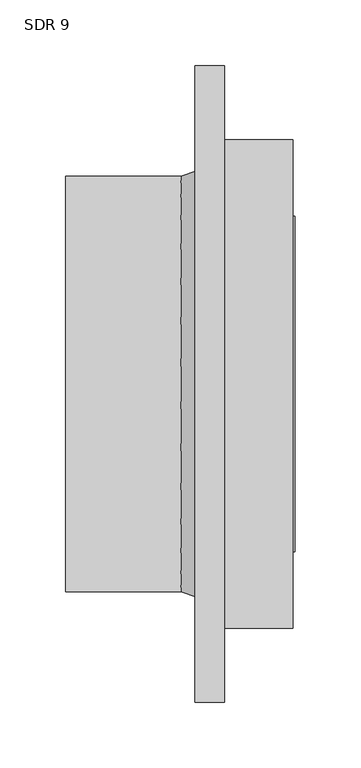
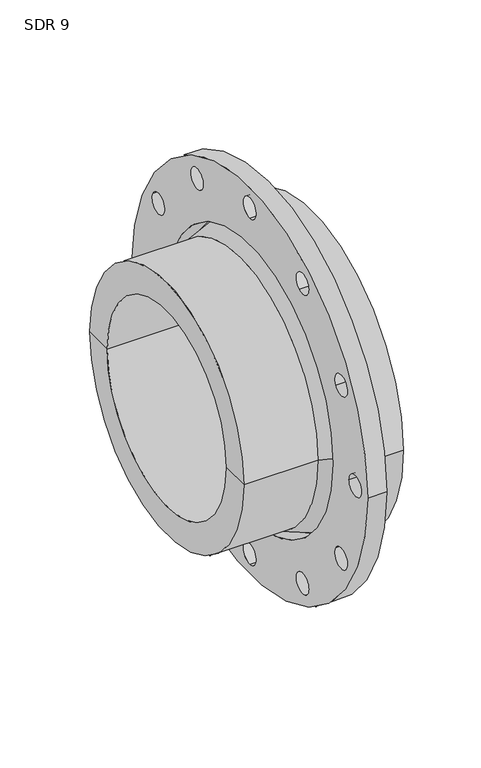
"""IFC4 building model written with IfcOpenShell, lengths in millimetres: valve geometry, Aquatherm - Flange Adapter Butt-Weld : SDR 9."""

from ifc_helpers import new_model, si_unit, point, frame, frame_2d, origin, origin_2d, place, context, project, spatial, polyline, circle_curve, trimmed, segment, composite_curve, outline, extrude, source, transform, mapped, element, save
from ifc_brep_helpers import plane_surface, cylinder_surface, revolved_surface, advanced_brep


def sdr_9_4c62836d(model_context):
    return source(origin(), model_context, "Body", "SolidModel", [
        extrude(outline(composite_curve([segment(trimmed(circle_curve(origin_2d(), 241.3), [point((241.3, 0.0))], [point((-241.3, 0.0))], False, "CARTESIAN"), True, "CONTINUOUS"), segment(trimmed(circle_curve(origin_2d(), 241.3), [point((-241.3, 0.0))], [point((241.3, 0.0))], False, "CARTESIAN"), True, "CONTINUOUS")], self_intersect=False), holes=[composite_curve([segment(trimmed(circle_curve(origin_2d(), 170.18), [point((170.18, 0.0))], [point((-170.18, 0.0))], True, "CARTESIAN"), True, "CONTINUOUS"), segment(trimmed(circle_curve(origin_2d(), 170.18), [point((-170.18, 0.0))], [point((170.18, 0.0))], True, "CARTESIAN"), True, "CONTINUOUS")], self_intersect=False), composite_curve([segment(trimmed(circle_curve(frame_2d((-215.9, 0.0)), 12.7), [point((-203.2, 0.0))], [point((-228.6, 0.0))], True, "CARTESIAN"), True, "CONTINUOUS"), segment(trimmed(circle_curve(frame_2d((-215.9, 0.0)), 12.7), [point((-228.6, 0.0))], [point((-203.2, 0.0))], True, "CARTESIAN"), True, "CONTINUOUS")], self_intersect=False), composite_curve([segment(trimmed(circle_curve(frame_2d((-186.9748847, -107.95)), 12.7), [point((-175.976362, -101.6))], [point((-197.9734073, -114.3))], True, "CARTESIAN"), True, "CONTINUOUS"), segment(trimmed(circle_curve(frame_2d((-186.9748847, -107.95)), 12.7), [point((-197.9734073, -114.3))], [point((-175.976362, -101.6))], True, "CARTESIAN"), True, "CONTINUOUS")], self_intersect=False), composite_curve([segment(trimmed(circle_curve(frame_2d((-186.9748847, 107.95)), 12.7), [point((-175.976362, 101.6))], [point((-197.9734073, 114.3))], True, "CARTESIAN"), True, "CONTINUOUS"), segment(trimmed(circle_curve(frame_2d((-186.9748847, 107.95)), 12.7), [point((-197.9734073, 114.3))], [point((-175.976362, 101.6))], True, "CARTESIAN"), True, "CONTINUOUS")], self_intersect=False), composite_curve([segment(trimmed(circle_curve(frame_2d((-107.95, 186.9748847)), 12.7), [point((-101.6, 175.976362))], [point((-114.3, 197.9734073))], True, "CARTESIAN"), True, "CONTINUOUS"), segment(trimmed(circle_curve(frame_2d((-107.95, 186.9748847)), 12.7), [point((-114.3, 197.9734073))], [point((-101.6, 175.976362))], True, "CARTESIAN"), True, "CONTINUOUS")], self_intersect=False), composite_curve([segment(trimmed(circle_curve(frame_2d((0.0, 215.9)), 12.7), [point((0.0, 203.2))], [point((0.0, 228.6))], True, "CARTESIAN"), True, "CONTINUOUS"), segment(trimmed(circle_curve(frame_2d((0.0, 215.9)), 12.7), [point((0.0, 228.6))], [point((0.0, 203.2))], True, "CARTESIAN"), True, "CONTINUOUS")], self_intersect=False), composite_curve([segment(trimmed(circle_curve(frame_2d((107.95, 186.9748847)), 12.7), [point((101.6, 175.976362))], [point((114.3, 197.9734073))], True, "CARTESIAN"), True, "CONTINUOUS"), segment(trimmed(circle_curve(frame_2d((107.95, 186.9748847)), 12.7), [point((114.3, 197.9734073))], [point((101.6, 175.976362))], True, "CARTESIAN"), True, "CONTINUOUS")], self_intersect=False), composite_curve([segment(trimmed(circle_curve(frame_2d((186.9748847, 107.95)), 12.7), [point((175.976362, 101.6))], [point((197.9734073, 114.3))], True, "CARTESIAN"), True, "CONTINUOUS"), segment(trimmed(circle_curve(frame_2d((186.9748847, 107.95)), 12.7), [point((197.9734073, 114.3))], [point((175.976362, 101.6))], True, "CARTESIAN"), True, "CONTINUOUS")], self_intersect=False), composite_curve([segment(trimmed(circle_curve(frame_2d((215.9, 0.0)), 12.7), [point((203.2, 0.0))], [point((228.6, 0.0))], True, "CARTESIAN"), True, "CONTINUOUS"), segment(trimmed(circle_curve(frame_2d((215.9, 0.0)), 12.7), [point((228.6, 0.0))], [point((203.2, 0.0))], True, "CARTESIAN"), True, "CONTINUOUS")], self_intersect=False), composite_curve([segment(trimmed(circle_curve(frame_2d((186.9748847, -107.95)), 12.7), [point((175.976362, -101.6))], [point((197.9734073, -114.3))], True, "CARTESIAN"), True, "CONTINUOUS"), segment(trimmed(circle_curve(frame_2d((186.9748847, -107.95)), 12.7), [point((197.9734073, -114.3))], [point((175.976362, -101.6))], True, "CARTESIAN"), True, "CONTINUOUS")], self_intersect=False), composite_curve([segment(trimmed(circle_curve(frame_2d((107.95, -186.9748847)), 12.7), [point((101.6, -175.976362))], [point((114.3, -197.9734073))], True, "CARTESIAN"), True, "CONTINUOUS"), segment(trimmed(circle_curve(frame_2d((107.95, -186.9748847)), 12.7), [point((114.3, -197.9734073))], [point((101.6, -175.976362))], True, "CARTESIAN"), True, "CONTINUOUS")], self_intersect=False), composite_curve([segment(trimmed(circle_curve(frame_2d((0.0, -215.9)), 12.7), [point((0.0, -203.2))], [point((0.0, -228.6))], True, "CARTESIAN"), True, "CONTINUOUS"), segment(trimmed(circle_curve(frame_2d((0.0, -215.9)), 12.7), [point((0.0, -228.6))], [point((0.0, -203.2))], True, "CARTESIAN"), True, "CONTINUOUS")], self_intersect=False), composite_curve([segment(trimmed(circle_curve(frame_2d((-107.95, -186.9748847)), 12.7), [point((-101.6, -175.976362))], [point((-114.3, -197.9734073))], True, "CARTESIAN"), True, "CONTINUOUS"), segment(trimmed(circle_curve(frame_2d((-107.95, -186.9748847)), 12.7), [point((-114.3, -197.9734073))], [point((-101.6, -175.976362))], True, "CARTESIAN"), True, "CONTINUOUS")], self_intersect=False)]), frame((-22.352, 0.0, 0.0), z_axis=(1.0, 0.0, 0.0), x_axis=(0.0, 1.0, 0.0)), (0.0, 0.0, 1.0), 22.352),
        advanced_brep(
        [(52.07, -185.42, 0.0), (0.0, -185.42, 0.0), (0.0, 185.42, 0.0), (52.07, 185.42, 0.0), (53.6575, -122.174, 0.0), (53.6575, -127.254, 0.0), (53.6575, 127.254, 0.0), (53.6575, 122.174, 0.0), (-120.396, -122.174, 0.0), (-120.396, 122.174, 0.0), (-120.396, -157.48, 0.0), (-120.396, 157.48, 0.0), (-33.02, -157.48, 0.0), (-33.02, 157.48, 0.0), (0.0, -168.91, 0.0), (0.0, 168.91, 0.0), (52.07, -127.254, 0.0), (52.07, 127.254, 0.0)],
        [
            (0, 1),
            (1, 2, circle_curve(frame((0.0, 0.0, 0.0), z_axis=(1.0, 0.0, 0.0), x_axis=(0.0, 1.0, 0.0)), 185.42)),
            (2, 3),
            (3, 0, circle_curve(frame((52.07, 0.0, 0.0), z_axis=(-1.0, 0.0, 0.0), x_axis=(0.0, 1.0, 0.0)), 185.42)),
            (2, 1, circle_curve(frame((0.0, 0.0, 0.0), z_axis=(1.0, 0.0, 0.0), x_axis=(0.0, 1.0, 0.0)), 185.42)),
            (0, 3, circle_curve(frame((52.07, 0.0, 0.0), z_axis=(-1.0, 0.0, 0.0), x_axis=(0.0, 1.0, 0.0)), 185.42)),
            (4, 5),
            (5, 6, circle_curve(frame((53.6575, 0.0, 0.0), z_axis=(1.0, 0.0, 0.0), x_axis=(0.0, 1.0, 0.0)), 127.254)),
            (6, 7),
            (7, 4, circle_curve(frame((53.6575, 0.0, 0.0), z_axis=(-1.0, 0.0, 0.0), x_axis=(0.0, 1.0, 0.0)), 122.174)),
            (6, 5, circle_curve(frame((53.6575, 0.0, 0.0), z_axis=(1.0, 0.0, 0.0), x_axis=(0.0, 1.0, 0.0)), 127.254)),
            (4, 7, circle_curve(frame((53.6575, 0.0, 0.0), z_axis=(-1.0, 0.0, 0.0), x_axis=(0.0, 1.0, 0.0)), 122.174)),
            (8, 4),
            (7, 9),
            (9, 8, circle_curve(frame((-120.396, 0.0, 0.0), z_axis=(-1.0, 0.0, 0.0), x_axis=(0.0, 1.0, 0.0)), 122.174)),
            (8, 9, circle_curve(frame((-120.396, 0.0, 0.0), z_axis=(-1.0, 0.0, 0.0), x_axis=(0.0, 1.0, 0.0)), 122.174)),
            (10, 8),
            (9, 11),
            (11, 10, circle_curve(frame((-120.396, 0.0, 0.0), z_axis=(-1.0, 0.0, 0.0), x_axis=(0.0, 1.0, 0.0)), 157.48)),
            (10, 11, circle_curve(frame((-120.396, 0.0, 0.0), z_axis=(-1.0, 0.0, 0.0), x_axis=(0.0, 1.0, 0.0)), 157.48)),
            (12, 10),
            (11, 13),
            (13, 12, circle_curve(frame((-33.02, 0.0, 0.0), z_axis=(-1.0, 0.0, 0.0), x_axis=(0.0, 1.0, 0.0)), 157.48)),
            (12, 13, circle_curve(frame((-33.02, 0.0, 0.0), z_axis=(-1.0, 0.0, 0.0), x_axis=(0.0, 1.0, 0.0)), 157.48)),
            (1, 14),
            (14, 15, circle_curve(frame((0.0, 0.0, 0.0), z_axis=(1.0, 0.0, 0.0), x_axis=(0.0, 1.0, 0.0)), 168.91)),
            (15, 2),
            (15, 14, circle_curve(frame((0.0, 0.0, 0.0), z_axis=(1.0, 0.0, 0.0), x_axis=(0.0, 1.0, 0.0)), 168.91)),
            (16, 0),
            (3, 17),
            (17, 16, circle_curve(frame((52.07, 0.0, 0.0), z_axis=(-1.0, 0.0, 0.0), x_axis=(0.0, 1.0, 0.0)), 127.254)),
            (16, 17, circle_curve(frame((52.07, 0.0, 0.0), z_axis=(-1.0, 0.0, 0.0), x_axis=(0.0, 1.0, 0.0)), 127.254)),
            (5, 16),
            (17, 6),
            (14, 12),
            (13, 15),
        ],
        [
            cylinder_surface(frame((1492.7089321, 0.0, 0.0), z_axis=(1.0, 0.0, 0.0), x_axis=(0.0, 1.0, 0.0)), 185.42),
            plane_surface(frame((53.6575, 0.0, 0.0), z_axis=(1.0, 0.0, 0.0), x_axis=(0.0, 1.0, 0.0))),
            revolved_surface(polyline([(53.65750000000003, 122.174, 0.0), (-120.39599999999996, 122.174, 0.0)]), (1492.7089321, 0.0, 0.0), (1.0, 0.0, 0.0)),
            plane_surface(frame((-120.396, 0.0, 0.0), z_axis=(-1.0, 0.0, 0.0), x_axis=(0.0, 1.0, 0.0))),
            cylinder_surface(frame((1492.7089321, 0.0, 0.0), z_axis=(1.0, 0.0, 0.0), x_axis=(0.0, 1.0, 0.0)), 157.48),
            plane_surface(frame((0.0, 0.0, 0.0), z_axis=(-1.0, 0.0, 0.0), x_axis=(0.0, 1.0, 0.0))),
            plane_surface(frame((52.07, 0.0, 0.0), z_axis=(1.0, 0.0, 0.0), x_axis=(0.0, 1.0, 0.0))),
            cylinder_surface(frame((1492.7089321, 0.0, 0.0), z_axis=(1.0, 0.0, 0.0), x_axis=(0.0, 1.0, 0.0)), 127.254),
            revolved_surface(polyline([(-33.02, 157.48, 0.0), (0.0, 168.91, 0.0)]), (1492.7089321, 0.0, 0.0), (1.0, 0.0, 0.0)),
        ],
        [
            (0, [[1, 2, 3, 4]]),
            (0, [[-3, 5, -1, 6]]),
            (1, [[7, 8, 9, 10]]),
            (1, [[-9, 11, -7, 12]]),
            (2, [[13, -10, 14, 15]]),
            (2, [[-14, -12, -13, 16]]),
            (3, [[17, -15, 18, 19]]),
            (3, [[-18, -16, -17, 20]]),
            (4, [[21, -19, 22, 23]]),
            (4, [[-22, -20, -21, 24]]),
            (5, [[25, 26, 27, -2]]),
            (5, [[-27, 28, -25, -5]]),
            (6, [[29, -4, 30, 31]]),
            (6, [[-30, -6, -29, 32]]),
            (7, [[33, -31, 34, -8]]),
            (7, [[-34, -32, -33, -11]]),
            (8, [[35, -23, 36, -26]]),
            (8, [[-36, -24, -35, -28]]),
        ],
    ),
    ])


if __name__ == "__main__":
    model = new_model("IFC4")
    model_context = context("Model", 3, world=origin())
    ifc_project = project(units=[si_unit("LENGTHUNIT", "METRE", prefix="MILLI")], contexts=[model_context])
    site = spatial("IfcSite", under=ifc_project)
    building = spatial("IfcBuilding", under=site)
    placement = place(None, origin())
    sdr_9_shape = sdr_9_4c62836d(model_context)
    element("IfcValve", 1, ObjectType="Aquatherm - Flange Adapter Butt-Weld : SDR 9", at=placement, inside=building, context=model_context, shape_type="MappedRepresentation", body=[
        mapped(sdr_9_shape, transform((0.0, 0.0, 0.0), x_axis=(1.0, 0.0, 0.0), y_axis=(0.0, 1.0, 0.0), z_axis=(0.0, 0.0, 1.0))),
    ])
    save(model, "model.ifc")
